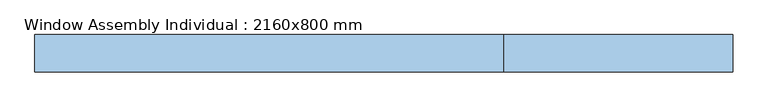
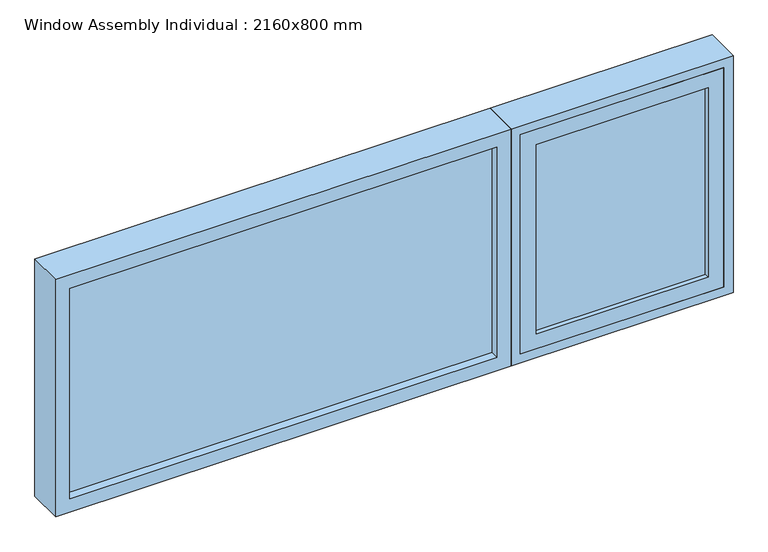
"""IFC4 building model written with IfcOpenShell, lengths in millimetres: window geometry, Window Assembly Individual : 2160x800 mm."""

from ifc_helpers import new_model, si_unit, frame, origin, place, context, project, spatial, polyline, outline, extrude, faceted_brep, source, transform, mapped, element, save


def window_assembly_individual_2160x800_mm_7af03b1a(model_context):
    return source(origin(), model_context, "Body", "SolidModel", [
        extrude(outline(polyline([(1570.0, 402.0), (830.0, 402.0), (830.0, 1050.0), (1570.0, 1050.0), (1570.0, 402.0)]), holes=[polyline([(880.0, 452.0), (1520.0, 452.0), (1520.0, 1000.0), (880.0, 1000.0), (880.0, 452.0)])]), frame((0.0, -190.0, 0.0), z_axis=(0.0, 1.0, 0.0), x_axis=(0.0, 0.0, 1.0)), (0.0, 0.0, 1.0), 50.0),
        extrude(outline(polyline([(1000.0, -155.0), (1000.0, -175.0), (452.0, -175.0), (452.0, -155.0), (1000.0, -155.0)])), frame((0.0, 0.0, 880.0), z_axis=(0.0, 0.0, 1.0), x_axis=(1.0, 0.0, 0.0)), (0.0, 0.0, 1.0), 640.0),
        faceted_brep([(1035.0, -75.0, 1555.0), (1035.0, -75.0, 845.0), (1035.0, -140.0, 845.0), (1035.0, -140.0, 1555.0), (1050.0, -140.0, 830.0), (1050.0, -140.0, 1570.0), (402.0, -140.0, 1570.0), (402.0, -140.0, 830.0), (417.0, -140.0, 845.0), (417.0, -140.0, 1555.0), (417.0, -75.0, 845.0), (1080.0, -75.0, 1600.0), (1080.0, -75.0, 800.0), (372.0, -75.0, 800.0), (372.0, -75.0, 1600.0), (417.0, -75.0, 1555.0), (1080.0, -190.0, 1600.0), (1080.0, -190.0, 800.0), (372.0, -190.0, 800.0), (372.0, -190.0, 1600.0), (1050.0, -190.0, 1570.0), (1050.0, -190.0, 830.0), (402.0, -190.0, 830.0), (402.0, -190.0, 1570.0)], [[[0, 1, 2, 3]], [[4, 5, 6, 7], [3, 2, 8, 9]], [[1, 10, 8, 2]], [[11, 12, 13, 14], [1, 0, 15, 10]], [[16, 17, 12, 11]], [[17, 18, 13, 12]], [[17, 16, 19, 18], [20, 21, 22, 23]], [[10, 15, 9, 8]], [[18, 19, 14, 13]], [[7, 6, 23, 22]], [[4, 7, 22, 21]], [[5, 4, 21, 20]], [[15, 0, 3, 9]], [[19, 16, 11, 14]], [[6, 5, 20, 23]]]),
        extrude(outline(polyline([(327.0, -140.0), (327.0, -162.0), (-1035.0, -162.0), (-1035.0, -140.0), (327.0, -140.0)])), frame((0.0, 0.0, 845.0), z_axis=(0.0, 0.0, 1.0), x_axis=(1.0, 0.0, 0.0)), (0.0, 0.0, 1.0), 710.0),
        extrude(outline(polyline([(800.0, 372.0), (1600.0, 372.0), (1600.0, -1080.0), (800.0, -1080.0), (800.0, 372.0)]), holes=[polyline([(1555.0, 327.0), (845.0, 327.0), (845.0, -1035.0), (1555.0, -1035.0), (1555.0, 327.0)])]), frame((0.0, -190.0, 0.0), z_axis=(0.0, 1.0, 0.0), x_axis=(0.0, 0.0, 1.0)), (0.0, 0.0, 1.0), 115.0),
    ])


if __name__ == "__main__":
    model = new_model("IFC4")
    model_context = context("Model", 3, world=origin())
    ifc_project = project(units=[si_unit("LENGTHUNIT", "METRE", prefix="MILLI")], contexts=[model_context])
    site = spatial("IfcSite", under=ifc_project)
    building = spatial("IfcBuilding", under=site)
    placement = place(None, origin())
    window_assembly_individual_2160x800_mm_shape = window_assembly_individual_2160x800_mm_7af03b1a(model_context)
    element("IfcWindow", 1, ObjectType="Window Assembly Individual : 2160x800 mm", at=placement, inside=building, context=model_context, shape_type="MappedRepresentation", body=[
        mapped(window_assembly_individual_2160x800_mm_shape, transform((0.0, 0.0, 0.0), x_axis=(1.0, 0.0, 0.0), y_axis=(0.0, 1.0, 0.0), z_axis=(0.0, 0.0, 1.0))),
    ])
    save(model, "model.ifc")
